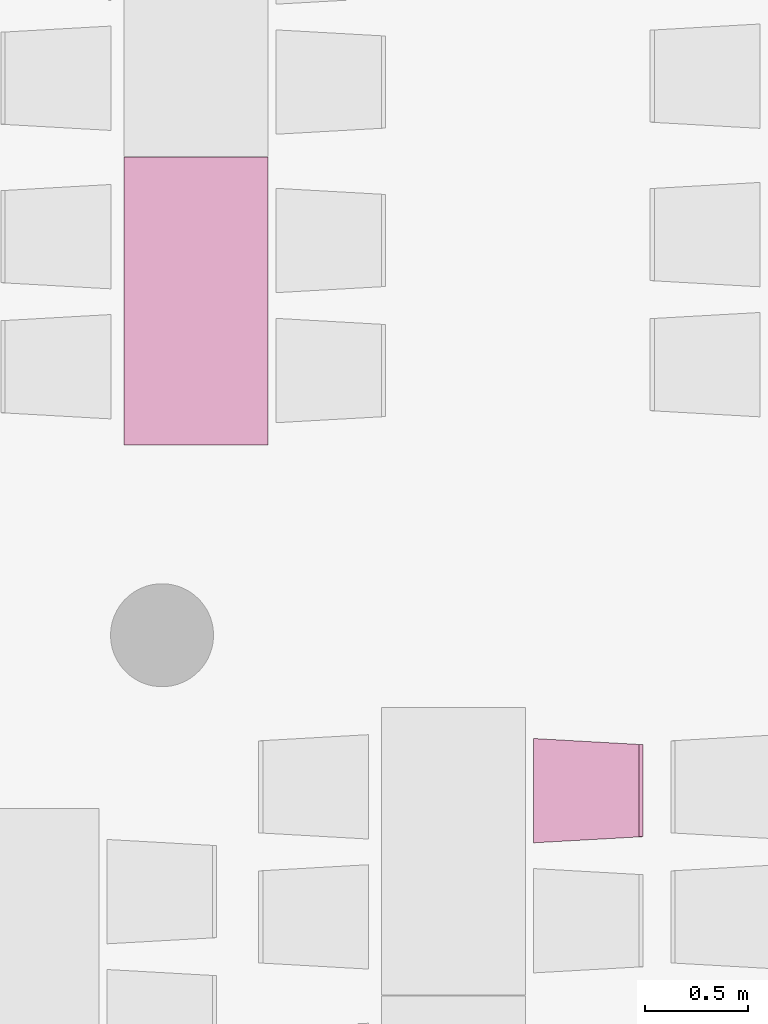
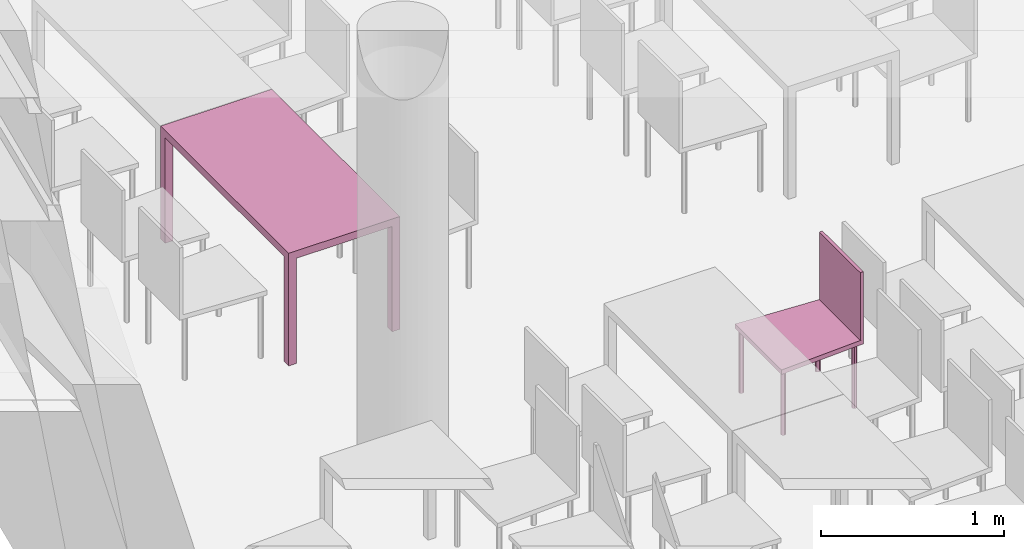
"""IFC4 building model written with IfcOpenShell, lengths in metres."""

from ifc_helpers import new_model, entity, si_unit, converted_unit, derived_unit, frame, origin, place, context, subcontext, project, spatial, faceted_brep, element, save


model = new_model("IFC4")

# Units and contexts
model_context = context("Model", 3, precision=1e-05, world=origin())
body_context = subcontext(model_context, "Body", "Model", "MODEL_VIEW")
ifc_project = project(units=[si_unit("LENGTHUNIT", "METRE"), si_unit("AREAUNIT", "SQUARE_METRE"), si_unit("VOLUMEUNIT", "CUBIC_METRE"), si_unit("MASSUNIT", "GRAM", prefix="KILO"), converted_unit("PLANEANGLEUNIT", "DEGREE", entity("IfcPlaneAngleMeasure", 0.0174532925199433), si_unit("PLANEANGLEUNIT", "RADIAN"), dimensions=[0, 0, 0, 0, 0, 0, 0]), derived_unit("THERMALTRANSMITTANCEUNIT", [(si_unit("POWERUNIT", "WATT"), 1), (si_unit("THERMODYNAMICTEMPERATUREUNIT", "KELVIN"), -1), (si_unit("LENGTHUNIT", "METRE"), -2)]), derived_unit("VOLUMETRICFLOWRATEUNIT", [(si_unit("LENGTHUNIT", "METRE"), 3), (converted_unit("TIMEUNIT", "hour", entity("IfcTimeMeasure", 3600.0), si_unit("TIMEUNIT", "SECOND"), dimensions=[0, 0, 1, 0, 0, 0, 0]), -1), (si_unit("LENGTHUNIT", "METRE"), -1)])], contexts=[model_context])

# Building, storeys
building_placement = place(None, origin())
building = spatial("IfcBuilding", under=ifc_project, at=building_placement, Name="HABITATGE PLURIFAMILIAR", CompositionType="ELEMENT")
storey_1_placement = place(building_placement, frame((0.0, 0.0, 3.35)))
storey_1 = spatial("IfcBuildingStorey", under=building, at=storey_1_placement, Name="PLANTA  ALTELL", CompositionType="ELEMENT", Elevation=3.35)
storey_2_placement = place(storey_1_placement, origin())
storey_2 = spatial("IfcBuildingStorey", under=storey_1, at=storey_2_placement, Name="NOU", CompositionType="PARTIAL")

# Furniture
furniture_1_placement = place(storey_2_placement, frame((400.801918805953, 18.7226455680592, 0.05)))
element("IfcFurniture", 1, at=furniture_1_placement, inside=storey_2, Name="Taula 140X80_PA", context=body_context, shape_type="Brep", body=[
    faceted_brep([(0.7, 0.0500000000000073, 0.0), (0.65, 0.0500000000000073, 0.0), (0.65, 0.0, 0.0), (0.7, 0.0, 0.0), (0.65, 0.0500000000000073, 0.7), (0.7, 0.0500000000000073, 0.7), (0.7, 0.0, 0.7), (0.65, 0.0, 0.7)], [[[0, 1, 2, 3]], [[4, 5, 6, 7]], [[1, 0, 5, 4]], [[2, 1, 4, 7]], [[3, 2, 7, 6]], [[0, 3, 6, 5]]], orient=[[False], [False], [False], [False], [False], [False]]),
    faceted_brep([(0.7, 1.39694592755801, 0.0), (0.65, 1.39694592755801, 0.0), (0.65, 1.34694592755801, 0.0), (0.7, 1.34694592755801, 0.0), (0.65, 1.39694592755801, 0.7), (0.7, 1.39694592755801, 0.7), (0.7, 1.34694592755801, 0.7), (0.65, 1.34694592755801, 0.7)], [[[0, 1, 2, 3]], [[4, 5, 6, 7]], [[1, 0, 5, 4]], [[2, 1, 4, 7]], [[3, 2, 7, 6]], [[0, 3, 6, 5]]], orient=[[False], [False], [False], [False], [False], [False]]),
    faceted_brep([(0.7, 1.396945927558, 0.7), (0.0, 1.396945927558, 0.7), (0.0, 0.0, 0.7), (0.7, 0.0, 0.7), (0.0, 1.396945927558, 0.75), (0.7, 1.396945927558, 0.75), (0.7, 0.0, 0.75), (0.0, 0.0, 0.75)], [[[0, 1, 2, 3]], [[4, 5, 6, 7]], [[1, 0, 5, 4]], [[2, 1, 4, 7]], [[3, 2, 7, 6]], [[0, 3, 6, 5]]], orient=[[False], [False], [False], [False], [False], [False]]),
    faceted_brep([(0.05, 0.05, 0.0), (0.0, 0.05, 0.0), (0.0, 0.0, 0.0), (0.05, 0.0, 0.0), (0.0, 0.05, 0.7), (0.05, 0.05, 0.7), (0.05, 0.0, 0.7), (0.0, 0.0, 0.7)], [[[0, 1, 2, 3]], [[4, 5, 6, 7]], [[1, 0, 5, 4]], [[2, 1, 4, 7]], [[3, 2, 7, 6]], [[0, 3, 6, 5]]], orient=[[False], [False], [False], [False], [False], [False]]),
    faceted_brep([(0.05, 1.396945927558, 0.0), (0.0, 1.396945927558, 0.0), (0.0, 1.346945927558, 0.0), (0.05, 1.346945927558, 0.0), (0.0, 1.396945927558, 0.7), (0.05, 1.396945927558, 0.7), (0.05, 1.346945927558, 0.7), (0.0, 1.346945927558, 0.7)], [[[0, 1, 2, 3]], [[4, 5, 6, 7]], [[1, 0, 5, 4]], [[2, 1, 4, 7]], [[3, 2, 7, 6]], [[0, 3, 6, 5]]], orient=[[False], [False], [False], [False], [False], [False]]),
])
furniture_2_placement = place(storey_2_placement, frame((402.789669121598, 16.7918682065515, 0.0499839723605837)))
element("IfcFurniture", 2, at=furniture_2_placement, inside=storey_2, Name="Cadira confident_PA", context=body_context, shape_type="Brep", body=[
    faceted_brep([(0.0250324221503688, 0.0391636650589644, 0.0), (0.0224394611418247, 0.0389254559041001, 0.0), (0.0199272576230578, 0.038240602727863, 0.0), (0.0175721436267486, 0.0371299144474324, 0.0), (0.0154456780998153, 0.0356271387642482, 0.0), (0.0136124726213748, 0.0337779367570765, 0.0), (0.0121282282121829, 0.0316384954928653, 0.0), (0.0110380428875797, 0.0292738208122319, 0.0), (0.010375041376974, 0.0267557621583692, 0.0), (0.0101593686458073, 0.0241608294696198, 0.0), (0.010397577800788, 0.0215678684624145, 0.0), (0.0110824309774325, 0.0190556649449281, 0.0), (0.0121931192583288, 0.0167005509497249, 0.0), (0.0136958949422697, 0.0145740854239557, 0.0), (0.0155450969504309, 0.0127408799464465, 0.0), (0.0176845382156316, 0.0112566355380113, 0.0), (0.0200492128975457, 0.010166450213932, 0.0), (0.0225672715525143, 0.00950344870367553, 0.0), (0.0251622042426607, 0.00928777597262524, 0.0), (0.0277551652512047, 0.00952598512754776, 0.0), (0.0302673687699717, 0.0102108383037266, 0.0), (0.0326224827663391, 0.0113215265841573, 0.0), (0.0347489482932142, 0.0128243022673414, 0.0), (0.0365821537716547, 0.0146735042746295, 0.0), (0.0380663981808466, 0.0168129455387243, 0.0), (0.0391565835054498, 0.019177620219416, 0.0), (0.0398195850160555, 0.0216956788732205, 0.0), (0.0400352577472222, 0.0242906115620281, 0.0), (0.0397970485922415, 0.0268835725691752, 0.0), (0.0391121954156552, 0.0293957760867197, 0.0), (0.0380015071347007, 0.0317508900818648, 0.0), (0.0364987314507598, 0.0338773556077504, 0.0), (0.0346495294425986, 0.0357105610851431, 0.0), (0.0325100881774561, 0.0371948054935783, 0.0), (0.030145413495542, 0.0382849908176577, 0.0), (0.0276273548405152, 0.0389479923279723, 0.0), (0.0250324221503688, 0.0391636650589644, 0.448281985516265), (0.0276273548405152, 0.0389479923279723, 0.448281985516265), (0.030145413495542, 0.0382849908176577, 0.448281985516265), (0.0325100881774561, 0.0371948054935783, 0.448281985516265), (0.0346495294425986, 0.0357105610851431, 0.448281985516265), (0.0364987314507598, 0.0338773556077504, 0.448281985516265), (0.0380015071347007, 0.0317508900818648, 0.448281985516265), (0.0391121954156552, 0.0293957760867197, 0.448281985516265), (0.0397970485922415, 0.0268835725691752, 0.448281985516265), (0.0400352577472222, 0.0242906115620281, 0.448281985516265), (0.0398195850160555, 0.0216956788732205, 0.448281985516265), (0.0391565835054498, 0.019177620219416, 0.448281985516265), (0.0380663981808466, 0.0168129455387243, 0.448281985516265), (0.0365821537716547, 0.0146735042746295, 0.448281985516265), (0.0347489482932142, 0.0128243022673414, 0.448281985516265), (0.0326224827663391, 0.0113215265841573, 0.448281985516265), (0.0302673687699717, 0.0102108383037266, 0.448281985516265), (0.0277551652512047, 0.00952598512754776, 0.448281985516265), (0.0251622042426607, 0.00928777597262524, 0.448281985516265), (0.0225672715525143, 0.00950344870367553, 0.448281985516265), (0.0200492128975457, 0.010166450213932, 0.448281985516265), (0.0176845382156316, 0.0112566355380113, 0.448281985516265), (0.0155450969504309, 0.0127408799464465, 0.448281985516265), (0.0136958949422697, 0.0145740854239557, 0.448281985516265), (0.0121931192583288, 0.0167005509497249, 0.448281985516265), (0.0110824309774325, 0.0190556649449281, 0.448281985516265), (0.010397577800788, 0.0215678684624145, 0.448281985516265), (0.0101593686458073, 0.0241608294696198, 0.448281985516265), (0.010375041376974, 0.0267557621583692, 0.448281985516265), (0.0110380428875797, 0.0292738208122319, 0.448281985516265), (0.0121282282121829, 0.0316384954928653, 0.448281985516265), (0.0136124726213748, 0.0337779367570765, 0.448281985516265), (0.0154456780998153, 0.0356271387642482, 0.448281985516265), (0.0175721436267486, 0.0371299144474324, 0.448281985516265), (0.0199272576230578, 0.038240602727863, 0.448281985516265), (0.0224394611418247, 0.0389254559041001, 0.448281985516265)], [[[0, 1, 2, 3, 4, 5, 6, 7, 8, 9, 10, 11, 12, 13, 14, 15, 16, 17, 18, 19, 20, 21, 22, 23, 24, 25, 26, 27, 28, 29, 30, 31, 32, 33, 34, 35]], [[36, 37, 38, 39, 40, 41, 42, 43, 44, 45, 46, 47, 48, 49, 50, 51, 52, 53, 54, 55, 56, 57, 58, 59, 60, 61, 62, 63, 64, 65, 66, 67, 68, 69, 70, 71]], [[35, 37, 36, 0]], [[34, 38, 37, 35]], [[33, 39, 38, 34]], [[32, 40, 39, 33]], [[31, 41, 40, 32]], [[30, 42, 41, 31]], [[29, 43, 42, 30]], [[28, 44, 43, 29]], [[27, 45, 44, 28]], [[26, 46, 45, 27]], [[25, 47, 46, 26]], [[24, 48, 47, 25]], [[23, 49, 48, 24]], [[22, 50, 49, 23]], [[21, 51, 50, 22]], [[20, 52, 51, 21]], [[19, 53, 52, 20]], [[18, 54, 53, 19]], [[17, 55, 54, 18]], [[16, 56, 55, 17]], [[15, 57, 56, 16]], [[14, 58, 57, 15]], [[13, 59, 58, 14]], [[12, 60, 59, 13]], [[11, 61, 60, 12]], [[10, 62, 61, 11]], [[9, 63, 62, 10]], [[8, 64, 63, 9]], [[7, 65, 64, 8]], [[6, 66, 65, 7]], [[5, 67, 66, 6]], [[4, 68, 67, 5]], [[3, 69, 68, 4]], [[2, 70, 69, 3]], [[1, 71, 70, 2]], [[0, 36, 71, 1]]], orient=[[False], [False], [False], [False], [False], [False], [False], [False], [False], [False], [False], [False], [False], [False], [False], [False], [False], [False], [False], [False], [False], [False], [False], [False], [False], [False], [False], [False], [False], [False], [False], [False], [False], [False], [False], [False], [False], [False]]),
    faceted_brep([(0.487439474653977, 0.0668016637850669, 0.0), (0.484846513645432, 0.0665634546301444, 0.0), (0.482334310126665, 0.0658786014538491, 0.0), (0.479979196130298, 0.0647679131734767, 0.0), (0.477852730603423, 0.0632651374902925, 0.0), (0.476019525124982, 0.0614159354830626, 0.0), (0.474535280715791, 0.0592764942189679, 0.0), (0.473445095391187, 0.056911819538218, 0.0), (0.472782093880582, 0.0543937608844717, 0.0), (0.472566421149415, 0.0517988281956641, 0.0), (0.472804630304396, 0.0492058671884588, 0.0), (0.473489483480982, 0.0466936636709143, 0.0), (0.474600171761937, 0.0443385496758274, 0.0), (0.476102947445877, 0.0422120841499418, 0.0), (0.477952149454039, 0.0403788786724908, 0.0), (0.480091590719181, 0.0388946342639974, 0.0), (0.482456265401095, 0.0378044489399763, 0.0), (0.484974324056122, 0.0371414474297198, 0.0), (0.487569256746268, 0.0369257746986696, 0.0), (0.490162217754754, 0.0371639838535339, 0.0), (0.492674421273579, 0.0378488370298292, 0.0), (0.495029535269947, 0.0389595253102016, 0.0), (0.497156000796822, 0.0404623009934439, 0.0), (0.498989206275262, 0.0423115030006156, 0.0), (0.500473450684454, 0.0444509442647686, 0.0), (0.501563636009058, 0.0468156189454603, 0.0), (0.502226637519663, 0.0493336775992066, 0.0), (0.50244231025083, 0.0519286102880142, 0.0), (0.502204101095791, 0.0545215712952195, 0.0), (0.501519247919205, 0.057033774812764, 0.0), (0.500408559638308, 0.0593888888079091, 0.0), (0.498905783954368, 0.0615153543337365, 0.0), (0.497056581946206, 0.0633485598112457, 0.0), (0.494917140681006, 0.0648328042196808, 0.0), (0.492552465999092, 0.065922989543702, 0.0), (0.490034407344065, 0.0665859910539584, 0.0), (0.487439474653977, 0.0668016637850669, 0.448281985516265), (0.490034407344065, 0.0665859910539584, 0.448281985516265), (0.492552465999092, 0.065922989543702, 0.448281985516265), (0.494917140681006, 0.0648328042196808, 0.448281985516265), (0.497056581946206, 0.0633485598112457, 0.448281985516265), (0.498905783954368, 0.0615153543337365, 0.448281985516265), (0.500408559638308, 0.0593888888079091, 0.448281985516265), (0.501519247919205, 0.057033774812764, 0.448281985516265), (0.502204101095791, 0.0545215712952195, 0.448281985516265), (0.50244231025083, 0.0519286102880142, 0.448281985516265), (0.502226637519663, 0.0493336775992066, 0.448281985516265), (0.501563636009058, 0.0468156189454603, 0.448281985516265), (0.500473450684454, 0.0444509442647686, 0.448281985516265), (0.498989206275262, 0.0423115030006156, 0.448281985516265), (0.497156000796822, 0.0404623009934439, 0.448281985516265), (0.495029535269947, 0.0389595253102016, 0.448281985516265), (0.492674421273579, 0.0378488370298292, 0.448281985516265), (0.490162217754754, 0.0371639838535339, 0.448281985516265), (0.487569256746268, 0.0369257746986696, 0.448281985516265), (0.484974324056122, 0.0371414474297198, 0.448281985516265), (0.482456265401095, 0.0378044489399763, 0.448281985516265), (0.480091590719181, 0.0388946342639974, 0.448281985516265), (0.477952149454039, 0.0403788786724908, 0.448281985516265), (0.476102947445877, 0.0422120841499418, 0.448281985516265), (0.474600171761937, 0.0443385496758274, 0.448281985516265), (0.473489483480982, 0.0466936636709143, 0.448281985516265), (0.472804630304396, 0.0492058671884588, 0.448281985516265), (0.472566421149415, 0.0517988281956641, 0.448281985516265), (0.472782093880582, 0.0543937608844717, 0.448281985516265), (0.473445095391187, 0.056911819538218, 0.448281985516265), (0.474535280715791, 0.0592764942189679, 0.448281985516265), (0.476019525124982, 0.0614159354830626, 0.448281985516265), (0.477852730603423, 0.0632651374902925, 0.448281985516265), (0.479979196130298, 0.0647679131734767, 0.448281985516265), (0.482334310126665, 0.0658786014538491, 0.448281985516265), (0.484846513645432, 0.0665634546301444, 0.448281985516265)], [[[0, 1, 2, 3, 4, 5, 6, 7, 8, 9, 10, 11, 12, 13, 14, 15, 16, 17, 18, 19, 20, 21, 22, 23, 24, 25, 26, 27, 28, 29, 30, 31, 32, 33, 34, 35]], [[36, 37, 38, 39, 40, 41, 42, 43, 44, 45, 46, 47, 48, 49, 50, 51, 52, 53, 54, 55, 56, 57, 58, 59, 60, 61, 62, 63, 64, 65, 66, 67, 68, 69, 70, 71]], [[35, 37, 36, 0]], [[34, 38, 37, 35]], [[33, 39, 38, 34]], [[32, 40, 39, 33]], [[31, 41, 40, 32]], [[30, 42, 41, 31]], [[29, 43, 42, 30]], [[28, 44, 43, 29]], [[27, 45, 44, 28]], [[26, 46, 45, 27]], [[25, 47, 46, 26]], [[24, 48, 47, 25]], [[23, 49, 48, 24]], [[22, 50, 49, 23]], [[21, 51, 50, 22]], [[20, 52, 51, 21]], [[19, 53, 52, 20]], [[18, 54, 53, 19]], [[17, 55, 54, 18]], [[16, 56, 55, 17]], [[15, 57, 56, 16]], [[14, 58, 57, 15]], [[13, 59, 58, 14]], [[12, 60, 59, 13]], [[11, 61, 60, 12]], [[10, 62, 61, 11]], [[9, 63, 62, 10]], [[8, 64, 63, 9]], [[7, 65, 64, 8]], [[6, 66, 65, 7]], [[5, 67, 66, 6]], [[4, 68, 67, 5]], [[3, 69, 68, 4]], [[2, 70, 69, 3]], [[1, 71, 70, 2]], [[0, 36, 71, 1]]], orient=[[False], [False], [False], [False], [False], [False], [False], [False], [False], [False], [False], [False], [False], [False], [False], [False], [False], [False], [False], [False], [False], [False], [False], [False], [False], [False], [False], [False], [False], [False], [False], [False], [False], [False], [False], [False], [False], [False]]),
    faceted_brep([(0.0250324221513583, 0.499163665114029, 0.0), (0.0224394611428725, 0.498925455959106, 0.0), (0.0199272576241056, 0.498240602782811, 0.0), (0.0175721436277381, 0.497129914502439, 0.0), (0.0154456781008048, 0.495627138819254, 0.0), (0.0136124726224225, 0.493777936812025, 0.0), (0.0121282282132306, 0.491638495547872, 0.0), (0.0110380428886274, 0.489273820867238, 0.0), (0.0103750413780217, 0.486755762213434, 0.0), (0.0101593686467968, 0.484160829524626, 0.0), (0.0103975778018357, 0.481567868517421, 0.0), (0.0110824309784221, 0.479055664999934, 0.0), (0.0121931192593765, 0.476700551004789, 0.0), (0.0136958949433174, 0.474574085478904, 0.0), (0.0155450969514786, 0.472740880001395, 0.0), (0.0176845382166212, 0.471256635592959, 0.0), (0.0200492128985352, 0.470166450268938, 0.0), (0.022567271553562, 0.469503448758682, 0.0), (0.0251622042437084, 0.469287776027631, 0.0), (0.0277551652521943, 0.469525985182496, 0.0), (0.0302673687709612, 0.470210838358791, 0.0), (0.0326224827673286, 0.471321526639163, 0.0), (0.0347489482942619, 0.472824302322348, 0.0), (0.0365821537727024, 0.474673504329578, 0.0), (0.0380663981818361, 0.476812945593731, 0.0), (0.0391565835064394, 0.479177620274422, 0.0), (0.039819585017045, 0.481695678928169, 0.0), (0.0400352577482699, 0.484290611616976, 0.0), (0.039797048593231, 0.486883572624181, 0.0), (0.0391121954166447, 0.489395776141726, 0.0), (0.0380015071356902, 0.491750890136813, 0.0), (0.0364987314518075, 0.493877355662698, 0.0), (0.0346495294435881, 0.495710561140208, 0.0), (0.0325100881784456, 0.497194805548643, 0.0), (0.0301454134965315, 0.498284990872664, 0.0), (0.0276273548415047, 0.49894799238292, 0.0), (0.0250324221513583, 0.499163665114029, 0.448281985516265), (0.0276273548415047, 0.49894799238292, 0.448281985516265), (0.0301454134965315, 0.498284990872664, 0.448281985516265), (0.0325100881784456, 0.497194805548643, 0.448281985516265), (0.0346495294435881, 0.495710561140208, 0.448281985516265), (0.0364987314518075, 0.493877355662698, 0.448281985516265), (0.0380015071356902, 0.491750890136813, 0.448281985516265), (0.0391121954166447, 0.489395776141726, 0.448281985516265), (0.039797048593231, 0.486883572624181, 0.448281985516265), (0.0400352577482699, 0.484290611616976, 0.448281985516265), (0.039819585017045, 0.481695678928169, 0.448281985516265), (0.0391565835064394, 0.479177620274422, 0.448281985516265), (0.0380663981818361, 0.476812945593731, 0.448281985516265), (0.0365821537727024, 0.474673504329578, 0.448281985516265), (0.0347489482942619, 0.472824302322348, 0.448281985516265), (0.0326224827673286, 0.471321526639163, 0.448281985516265), (0.0302673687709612, 0.470210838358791, 0.448281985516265), (0.0277551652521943, 0.469525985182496, 0.448281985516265), (0.0251622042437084, 0.469287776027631, 0.448281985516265), (0.022567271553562, 0.469503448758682, 0.448281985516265), (0.0200492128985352, 0.470166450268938, 0.448281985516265), (0.0176845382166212, 0.471256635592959, 0.448281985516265), (0.0155450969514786, 0.472740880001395, 0.448281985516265), (0.0136958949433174, 0.474574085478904, 0.448281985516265), (0.0121931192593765, 0.476700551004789, 0.448281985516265), (0.0110824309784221, 0.479055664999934, 0.448281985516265), (0.0103975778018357, 0.481567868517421, 0.448281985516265), (0.0101593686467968, 0.484160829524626, 0.448281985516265), (0.0103750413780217, 0.486755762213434, 0.448281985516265), (0.0110380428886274, 0.489273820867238, 0.448281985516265), (0.0121282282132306, 0.491638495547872, 0.448281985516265), (0.0136124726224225, 0.493777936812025, 0.448281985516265), (0.0154456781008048, 0.495627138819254, 0.448281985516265), (0.0175721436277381, 0.497129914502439, 0.448281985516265), (0.0199272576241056, 0.498240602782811, 0.448281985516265), (0.0224394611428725, 0.498925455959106, 0.448281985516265)], [[[0, 1, 2, 3, 4, 5, 6, 7, 8, 9, 10, 11, 12, 13, 14, 15, 16, 17, 18, 19, 20, 21, 22, 23, 24, 25, 26, 27, 28, 29, 30, 31, 32, 33, 34, 35]], [[36, 37, 38, 39, 40, 41, 42, 43, 44, 45, 46, 47, 48, 49, 50, 51, 52, 53, 54, 55, 56, 57, 58, 59, 60, 61, 62, 63, 64, 65, 66, 67, 68, 69, 70, 71]], [[35, 37, 36, 0]], [[34, 38, 37, 35]], [[33, 39, 38, 34]], [[32, 40, 39, 33]], [[31, 41, 40, 32]], [[30, 42, 41, 31]], [[29, 43, 42, 30]], [[28, 44, 43, 29]], [[27, 45, 44, 28]], [[26, 46, 45, 27]], [[25, 47, 46, 26]], [[24, 48, 47, 25]], [[23, 49, 48, 24]], [[22, 50, 49, 23]], [[21, 51, 50, 22]], [[20, 52, 51, 21]], [[19, 53, 52, 20]], [[18, 54, 53, 19]], [[17, 55, 54, 18]], [[16, 56, 55, 17]], [[15, 57, 56, 16]], [[14, 58, 57, 15]], [[13, 59, 58, 14]], [[12, 60, 59, 13]], [[11, 61, 60, 12]], [[10, 62, 61, 11]], [[9, 63, 62, 10]], [[8, 64, 63, 9]], [[7, 65, 64, 8]], [[6, 66, 65, 7]], [[5, 67, 66, 6]], [[4, 68, 67, 5]], [[3, 69, 68, 4]], [[2, 70, 69, 3]], [[1, 71, 70, 2]], [[0, 36, 71, 1]]], orient=[[False], [False], [False], [False], [False], [False], [False], [False], [False], [False], [False], [False], [False], [False], [False], [False], [False], [False], [False], [False], [False], [False], [False], [False], [False], [False], [False], [False], [False], [False], [False], [False], [False], [False], [False], [False], [False], [False]]),
    faceted_brep([(0.48743947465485, 0.466801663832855, 0.0), (0.484846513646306, 0.466563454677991, 0.0), (0.482334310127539, 0.465878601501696, 0.0), (0.479979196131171, 0.464767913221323, 0.0), (0.477852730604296, 0.463265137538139, 0.0), (0.476019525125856, 0.461415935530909, 0.0), (0.474535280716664, 0.459276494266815, 0.0), (0.47344509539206, 0.456911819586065, 0.0), (0.472782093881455, 0.454393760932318, 0.0), (0.472566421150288, 0.451798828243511, 0.0), (0.472804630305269, 0.449205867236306, 0.0), (0.473489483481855, 0.446693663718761, 0.0), (0.47460017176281, 0.444338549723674, 0.0), (0.47610294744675, 0.442212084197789, 0.0), (0.477952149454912, 0.440378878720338, 0.0), (0.480091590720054, 0.438894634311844, 0.0), (0.482456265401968, 0.437804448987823, 0.0), (0.484974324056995, 0.437141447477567, 0.0), (0.487569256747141, 0.436925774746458, 0.0), (0.490162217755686, 0.437163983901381, 0.0), (0.492674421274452, 0.437848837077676, 0.0), (0.495029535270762, 0.438959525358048, 0.0), (0.497156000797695, 0.440462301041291, 0.0), (0.498989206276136, 0.442311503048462, 0.0), (0.500473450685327, 0.444450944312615, 0.0), (0.501563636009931, 0.446815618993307, 0.0), (0.502226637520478, 0.449333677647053, 0.0), (0.502442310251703, 0.451928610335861, 0.0), (0.502204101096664, 0.454521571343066, 0.0), (0.501519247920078, 0.457033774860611, 0.0), (0.500408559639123, 0.459388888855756, 0.0), (0.498905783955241, 0.461515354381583, 0.0), (0.497056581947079, 0.463348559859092, 0.0), (0.494917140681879, 0.464832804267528, 0.0), (0.492552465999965, 0.465922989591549, 0.0), (0.490034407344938, 0.466585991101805, 0.0), (0.48743947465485, 0.466801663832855, 0.448281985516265), (0.490034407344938, 0.466585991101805, 0.448281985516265), (0.492552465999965, 0.465922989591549, 0.448281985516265), (0.494917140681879, 0.464832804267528, 0.448281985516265), (0.497056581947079, 0.463348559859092, 0.448281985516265), (0.498905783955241, 0.461515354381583, 0.448281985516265), (0.500408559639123, 0.459388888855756, 0.448281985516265), (0.501519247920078, 0.457033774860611, 0.448281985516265), (0.502204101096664, 0.454521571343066, 0.448281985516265), (0.502442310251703, 0.451928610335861, 0.448281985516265), (0.502226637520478, 0.449333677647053, 0.448281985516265), (0.501563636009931, 0.446815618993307, 0.448281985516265), (0.500473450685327, 0.444450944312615, 0.448281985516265), (0.498989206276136, 0.442311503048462, 0.448281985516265), (0.497156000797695, 0.440462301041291, 0.448281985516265), (0.495029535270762, 0.438959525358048, 0.448281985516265), (0.492674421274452, 0.437848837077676, 0.448281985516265), (0.490162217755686, 0.437163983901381, 0.448281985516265), (0.487569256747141, 0.436925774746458, 0.448281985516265), (0.484974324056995, 0.437141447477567, 0.448281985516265), (0.482456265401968, 0.437804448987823, 0.448281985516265), (0.480091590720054, 0.438894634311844, 0.448281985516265), (0.477952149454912, 0.440378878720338, 0.448281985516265), (0.47610294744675, 0.442212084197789, 0.448281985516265), (0.47460017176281, 0.444338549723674, 0.448281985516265), (0.473489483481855, 0.446693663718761, 0.448281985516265), (0.472804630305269, 0.449205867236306, 0.448281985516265), (0.472566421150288, 0.451798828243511, 0.448281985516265), (0.472782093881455, 0.454393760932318, 0.448281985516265), (0.47344509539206, 0.456911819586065, 0.448281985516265), (0.474535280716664, 0.459276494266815, 0.448281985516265), (0.476019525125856, 0.461415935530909, 0.448281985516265), (0.477852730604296, 0.463265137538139, 0.448281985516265), (0.479979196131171, 0.464767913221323, 0.448281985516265), (0.482334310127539, 0.465878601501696, 0.448281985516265), (0.484846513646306, 0.466563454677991, 0.448281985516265)], [[[0, 1, 2, 3, 4, 5, 6, 7, 8, 9, 10, 11, 12, 13, 14, 15, 16, 17, 18, 19, 20, 21, 22, 23, 24, 25, 26, 27, 28, 29, 30, 31, 32, 33, 34, 35]], [[36, 37, 38, 39, 40, 41, 42, 43, 44, 45, 46, 47, 48, 49, 50, 51, 52, 53, 54, 55, 56, 57, 58, 59, 60, 61, 62, 63, 64, 65, 66, 67, 68, 69, 70, 71]], [[35, 37, 36, 0]], [[34, 38, 37, 35]], [[33, 39, 38, 34]], [[32, 40, 39, 33]], [[31, 41, 40, 32]], [[30, 42, 41, 31]], [[29, 43, 42, 30]], [[28, 44, 43, 29]], [[27, 45, 44, 28]], [[26, 46, 45, 27]], [[25, 47, 46, 26]], [[24, 48, 47, 25]], [[23, 49, 48, 24]], [[22, 50, 49, 23]], [[21, 51, 50, 22]], [[20, 52, 51, 21]], [[19, 53, 52, 20]], [[18, 54, 53, 19]], [[17, 55, 54, 18]], [[16, 56, 55, 17]], [[15, 57, 56, 16]], [[14, 58, 57, 15]], [[13, 59, 58, 14]], [[12, 60, 59, 13]], [[11, 61, 60, 12]], [[10, 62, 61, 11]], [[9, 63, 62, 10]], [[8, 64, 63, 9]], [[7, 65, 64, 8]], [[6, 66, 65, 7]], [[5, 67, 66, 6]], [[4, 68, 67, 5]], [[3, 69, 68, 4]], [[2, 70, 69, 3]], [[1, 71, 70, 2]], [[0, 36, 71, 1]]], orient=[[False], [False], [False], [False], [False], [False], [False], [False], [False], [False], [False], [False], [False], [False], [False], [False], [False], [False], [False], [False], [False], [False], [False], [False], [False], [False], [False], [False], [False], [False], [False], [False], [False], [False], [False], [False], [False], [False]]),
    faceted_brep([(0.532607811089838, 0.476514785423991, 0.418281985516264), (0.0, 0.506514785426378, 0.418281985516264), (0.0, 0.0, 0.418281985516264), (0.532607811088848, 0.0300000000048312, 0.418281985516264), (0.0, 0.506514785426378, 0.448281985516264), (0.532607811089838, 0.476514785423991, 0.448281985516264), (0.532607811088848, 0.0300000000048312, 0.448281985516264), (0.0, 0.0, 0.448281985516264)], [[[0, 1, 2, 3]], [[4, 5, 6, 7]], [[1, 0, 5, 4]], [[2, 1, 4, 7]], [[3, 2, 7, 6]], [[0, 3, 6, 5]]], orient=[[False], [False], [False], [False], [False], [False]]),
    faceted_brep([(0.512607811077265, 0.476514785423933, 0.448281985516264), (0.512607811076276, 0.0300000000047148, 0.448281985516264), (0.53260781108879, 0.0300000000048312, 0.448281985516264), (0.53260781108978, 0.476514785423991, 0.448281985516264), (0.512607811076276, 0.0300000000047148, 0.898281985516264), (0.512607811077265, 0.476514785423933, 0.898281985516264), (0.53260781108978, 0.476514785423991, 0.898281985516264), (0.53260781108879, 0.0300000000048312, 0.898281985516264)], [[[0, 1, 2, 3]], [[4, 5, 6, 7]], [[1, 0, 5, 4]], [[2, 1, 4, 7]], [[3, 2, 7, 6]], [[0, 3, 6, 5]]], orient=[[False], [False], [False], [False], [False], [False]]),
])

save(model, "model.ifc")
